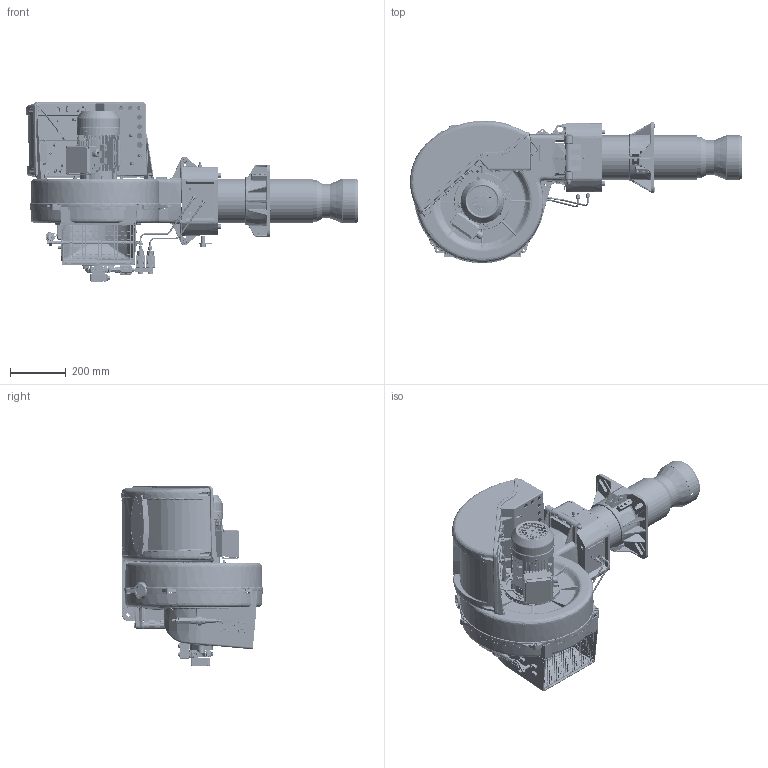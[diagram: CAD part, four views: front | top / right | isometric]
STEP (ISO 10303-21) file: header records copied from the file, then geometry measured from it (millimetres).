
FILE_DESCRIPTION (( 'STEP AP214' ), '1' );
FILE_NAME ('35800010-115399.STEP', '2017-10-25T08:46:08', ( '' ), ( '' ), 'SwSTEP 2.0', 'SolidWorks 2016', '' );
FILE_SCHEMA (( 'AUTOMOTIVE_DESIGN' ));
Length unit declared in the file: millimetre
Products named in the file (1): 35800010-115399
Bounding box: 1189.69 x 510.16 x 647.29 mm (x, y, z)
Surface area: 3551729.5 mm2 (no closed solid volume)
Topology: 0 solids, 369 shells, 4472 faces, 20046 edges, 15167 vertices
Faces by surface type: plane 2198, cylinder 1028, bspline 923, cone 290, torus 21, sphere 12
Full cylindrical faces by diameter (mm): 3.242 x2, 3.5 x2, 3.7 x6, 4.1 x1, 4.2 x5, 4.8 x3, 5 x7, 5.4 x1, 6 x16, 6.25 x1, 7 x11, 8 x17, 8.5 x8, 8.728 x1, 8.8 x5, 9 x1, 9.5 x6, 9.728 x2, 9.73 x1, 10 x7, 10.2 x2, 10.4 x2, 11.3 x1, 11.5 x1, 12 x4, 13.16 x1, 14 x9, 15 x7, 16 x5, 17.45 x2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
Entity records: 384973 total; most frequent: CARTESIAN_POINT 213432, ORIENTED_EDGE 27144, DIRECTION 21443, EDGE_CURVE 19485, VERTEX_POINT 15019, VECTOR 9329, LINE 9329, B_SPLINE_CURVE_WITH_KNOTS 7276
